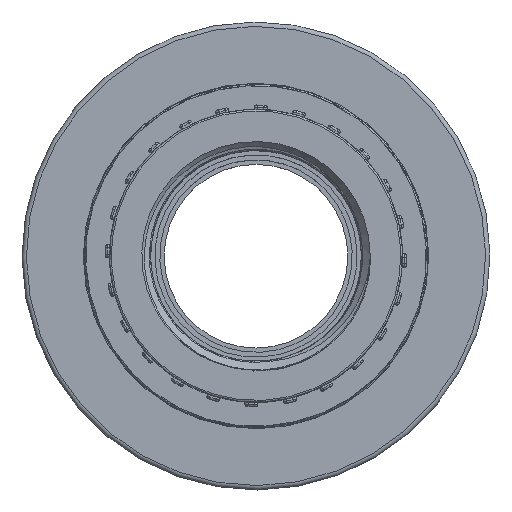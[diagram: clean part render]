
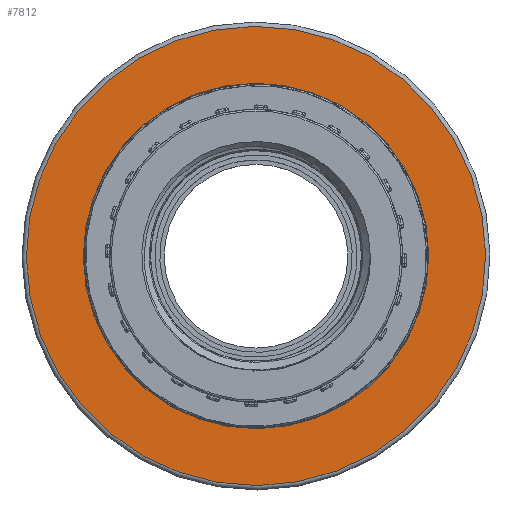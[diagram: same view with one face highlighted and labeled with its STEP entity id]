
A CAD part, top view. The second image highlights one B-rep face of the part: STEP entity #7812.
In plain terms, the highlighted planar face has unit normal (0, 0, 1).
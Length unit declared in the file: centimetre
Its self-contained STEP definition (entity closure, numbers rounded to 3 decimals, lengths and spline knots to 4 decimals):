
#110=FACE_BOUND('',#1162,.T.);
#720=FACE_OUTER_BOUND('',#1161,.T.);
#1161=EDGE_LOOP('',(#6194));
#1162=EDGE_LOOP('',(#6195));
#1624=CIRCLE('',#8493,2.625);
#1626=CIRCLE('',#8496,1.975);
#3329=VERTEX_POINT('',#18183);
#3331=VERTEX_POINT('',#18188);
#4331=EDGE_CURVE('',#3329,#3329,#1624,.T.);
#4333=EDGE_CURVE('',#3331,#3331,#1626,.T.);
#6194=ORIENTED_EDGE('',*,*,#4331,.F.);
#6195=ORIENTED_EDGE('',*,*,#4333,.T.);
#7055=PLANE('',#8495);
#7812=ADVANCED_FACE('',(#720,#110),#7055,.T.);
#8493=AXIS2_PLACEMENT_3D('',#18184,#10252,#10253);
#8495=AXIS2_PLACEMENT_3D('',#18187,#10256,#10257);
#8496=AXIS2_PLACEMENT_3D('',#18189,#10258,#10259);
#10252=DIRECTION('center_axis',(0.,0.,
-1.));
#10253=DIRECTION('ref_axis',(0.87,-0.493,0.));
#10256=DIRECTION('center_axis',(0.,0.,
1.));
#10257=DIRECTION('ref_axis',(-0.493,-0.87,0.));
#10258=DIRECTION('center_axis',(0.,0.,
-1.));
#10259=DIRECTION('ref_axis',(0.87,-0.493,0.));
#18183=CARTESIAN_POINT('',(-2.2831,1.2954,1.47));
#18184=CARTESIAN_POINT('Origin',(0.,0.,
1.47));
#18187=CARTESIAN_POINT('Origin',(-2.3266,1.3201,1.47));
#18188=CARTESIAN_POINT('',(-1.7178,0.9746,1.47));
#18189=CARTESIAN_POINT('Origin',(0.,0.,
1.47));
